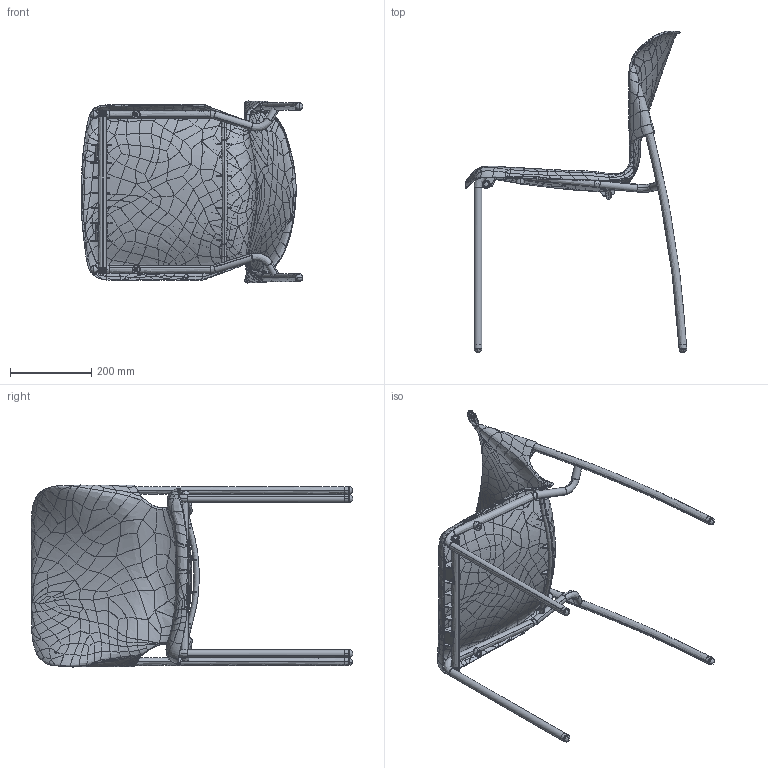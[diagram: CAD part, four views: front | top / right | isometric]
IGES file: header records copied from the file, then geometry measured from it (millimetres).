
Global section: file name: Conjunto Silla Individual; native system: Autodesk Inventor 2016; preprocessor: unknown; author: diseno4; date: 20160809.085723; units: millimetre
Bounding box: 544.71 x 790.45 x 447.37 mm (x, y, z)
Surface area: 1187573.5 mm2 (no closed solid volume)
Topology: 0 solids, 0 shells, 1823 faces, 11708 edges, 11711 vertices
Faces by surface type: bspline 1823
